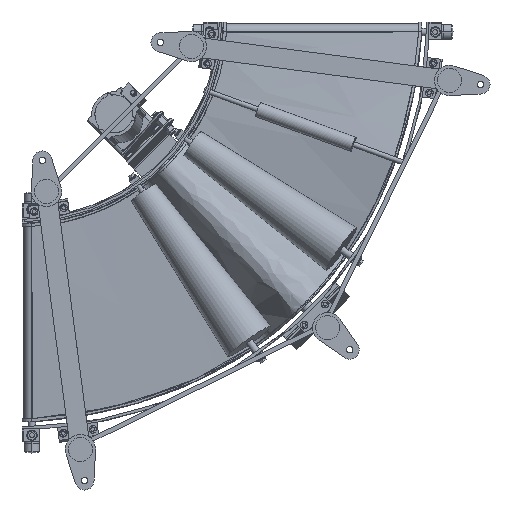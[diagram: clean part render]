
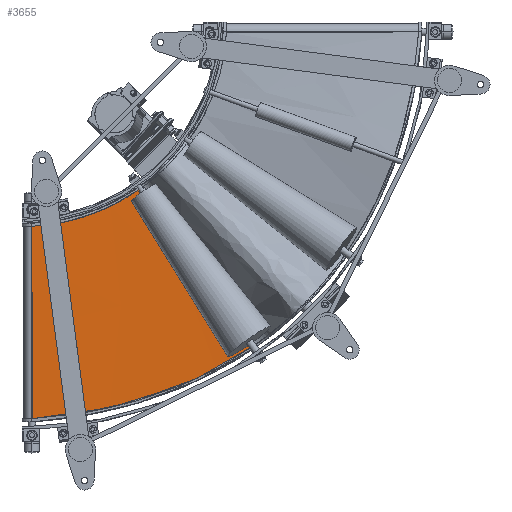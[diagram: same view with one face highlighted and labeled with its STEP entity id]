
A CAD part, front view. The second image highlights one B-rep face of the part: STEP entity #3655.
In plain terms, the highlighted free-form (B-spline) face has degree [3, 1] with [10, 2] control points.
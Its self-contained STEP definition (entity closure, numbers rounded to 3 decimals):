
#3655=ADVANCED_FACE('',(#20194),#20193,.F.);
#20193=( BOUNDED_SURFACE() B_SPLINE_SURFACE( 3,1,((#37366,#37367),(#37368,#37369),(#37370,#37371),(#37372,#37373),(#37374,#37375),(#37376,#37377),(#37378,#37379),(#37380,#37381),(#37382,#37383),(#37384,#37385)), .UNSPECIFIED.,.F.,.F.,.F.) B_SPLINE_SURFACE_WITH_KNOTS((4,1,1,1,1,1,1,4),(2,2),(0.,0.125,0.25,0.375,0.5,0.75,0.875,1.),(0.01,0.988), .UNSPECIFIED. ) GEOMETRIC_REPRESENTATION_ITEM() RATIONAL_B_SPLINE_SURFACE(((1.,1.),(1.,1.),(1.,1.),(1.,1.),(1.,1.),(1.,1.),(1.,1.),(1.,1.),(1.,1.),(1.,1.))) REPRESENTATION_ITEM('') SURFACE() );
#20194=FACE_OUTER_BOUND('',#37386,.T.);
#37366=CARTESIAN_POINT('',(459.837,-54.978,-648.506));
#37367=CARTESIAN_POINT('',(234.121,-40.303,-330.172));
#37368=CARTESIAN_POINT('',(443.601,-53.871,-659.737));
#37369=CARTESIAN_POINT('',(226.148,-39.876,-335.832));
#37370=CARTESIAN_POINT('',(410.253,-51.672,-680.93));
#37371=CARTESIAN_POINT('',(209.794,-39.027,-346.58));
#37372=CARTESIAN_POINT('',(357.945,-48.438,-708.807));
#37373=CARTESIAN_POINT('',(184.16,-37.775,-360.884));
#37374=CARTESIAN_POINT('',(303.726,-45.287,-732.749));
#37375=CARTESIAN_POINT('',(157.555,-36.553,-373.292));
#37376=CARTESIAN_POINT('',(229.345,-41.21,-759.476));
#37377=CARTESIAN_POINT('',(120.973,-34.97,-387.22));
#37378=CARTESIAN_POINT('',(152.532,-37.341,-778.602));
#37379=CARTESIAN_POINT('',(83.025,-33.471,-397.136));
#37380=CARTESIAN_POINT('',(74.424,-33.705,-790.668));
#37381=CARTESIAN_POINT('',(44.3,-32.077,-402.896));
#37382=CARTESIAN_POINT('',(35.082,-31.966,-794.457));
#37383=CARTESIAN_POINT('',(24.779,-31.419,-404.371));
#37384=CARTESIAN_POINT('',(15.375,-31.116,-795.818));
#37385=CARTESIAN_POINT('',(15.005,-31.1,-404.756));
#37386=EDGE_LOOP('',(#49218,#49219,#49220,#49221,#49222));
#49218=ORIENTED_EDGE('',*,*,#55362,.F.);
#49219=ORIENTED_EDGE('',*,*,#55305,.T.);
#49220=ORIENTED_EDGE('',*,*,#55363,.T.);
#49221=ORIENTED_EDGE('',*,*,#55340,.T.);
#49222=ORIENTED_EDGE('',*,*,#55337,.T.);
#55305=EDGE_CURVE('',#82154,#82146,#82155,.T.);
#55337=EDGE_CURVE('',#82363,#82133,#82364,.T.);
#55340=EDGE_CURVE('',#82383,#82363,#82384,.T.);
#55362=EDGE_CURVE('',#82154,#82133,#82526,.T.);
#55363=EDGE_CURVE('',#82146,#82383,#82532,.T.);
#82133=VERTEX_POINT('',#106950);
#82146=VERTEX_POINT('',#106958);
#82154=VERTEX_POINT('',#106964);
#82155=(BOUNDED_CURVE() B_SPLINE_CURVE(3,(#106965,#106966,#106967,#106968,#106969,#106970,#106971,#106972,#106973,#106974,#106975,#106976,#106977,#106978,#106979,#106980,#106981,#106982,#106983,#106984,#106985,#106986,#106987,#106988,#106989,#106990),.UNSPECIFIED.,.F.,.F.) B_SPLINE_CURVE_WITH_KNOTS((4,2,2,2,2,2,2,2,2,2,2,2,4),(0.,0.059,0.118,0.133,0.148,0.178,0.207,0.222,0.237,0.296,0.355,0.415,0.474),.UNSPECIFIED.) CURVE() GEOMETRIC_REPRESENTATION_ITEM() RATIONAL_B_SPLINE_CURVE((1.,1.,1.,1.,1.,1.,1.,1.,1.,1.,1.,1.,1.,1.,1.,1.,1.,1.,1.,1.,1.,1.,1.,1.,1.,1.)) REPRESENTATION_ITEM('') );
#82363=VERTEX_POINT('',#107449);
#82364=(BOUNDED_CURVE() B_SPLINE_CURVE(3,(#107450,#107451,#107452,#107453,#107454,#107455,#107456,#107457,#107458,#107459,#107460,#107461,#107462,#107463,#107464,#107465),.UNSPECIFIED.,.F.,.F.) B_SPLINE_CURVE_WITH_KNOTS((4,2,2,2,2,2,2,4),(0.,0.059,0.088,0.117,0.147,0.176,0.206,0.235),.UNSPECIFIED.) CURVE() GEOMETRIC_REPRESENTATION_ITEM() RATIONAL_B_SPLINE_CURVE((1.,1.,1.,1.,1.,1.,1.,1.,1.,1.,1.,1.,1.,1.,1.,1.)) REPRESENTATION_ITEM('') );
#82383=VERTEX_POINT('',#107474);
#82384=(BOUNDED_CURVE() B_SPLINE_CURVE(3,(#107475,#107476,#107477,#107478),.UNSPECIFIED.,.F.,.F.) B_SPLINE_CURVE_WITH_KNOTS((4,4),(0.,0.),.UNSPECIFIED.) CURVE() GEOMETRIC_REPRESENTATION_ITEM() RATIONAL_B_SPLINE_CURVE((1.,1.,1.,1.)) REPRESENTATION_ITEM('') );
#82526=LINE('',#107986,#107987);
#82532=LINE('',#107989,#107990);
#106950=CARTESIAN_POINT('',(15.003,-31.1,-406.5));
#106958=CARTESIAN_POINT('',(459.82,-54.977,-648.482));
#106964=CARTESIAN_POINT('',(15.373,-31.116,-793.476));
#106965=CARTESIAN_POINT('',(15.373,-31.116,-793.476));
#106966=CARTESIAN_POINT('',(35.056,-31.964,-792.209));
#106967=CARTESIAN_POINT('',(54.704,-32.832,-790.411));
#106968=CARTESIAN_POINT('',(93.866,-34.608,-785.701));
#106969=CARTESIAN_POINT('',(113.38,-35.516,-782.787));
#106970=CARTESIAN_POINT('',(137.639,-36.676,-778.412));
#106971=CARTESIAN_POINT('',(142.484,-36.909,-777.501));
#106972=CARTESIAN_POINT('',(152.159,-37.378,-775.604));
#106973=CARTESIAN_POINT('',(156.989,-37.613,-774.613));
#106974=CARTESIAN_POINT('',(171.455,-38.323,-771.54));
#106975=CARTESIAN_POINT('',(181.068,-38.802,-769.341));
#106976=CARTESIAN_POINT('',(200.217,-39.767,-764.636));
#106977=CARTESIAN_POINT('',(209.754,-40.255,-762.131));
#106978=CARTESIAN_POINT('',(223.994,-40.993,-758.141));
#106979=CARTESIAN_POINT('',(228.729,-41.24,-756.77));
#106980=CARTESIAN_POINT('',(238.176,-41.737,-753.951));
#106981=CARTESIAN_POINT('',(242.888,-41.986,-752.503));
#106982=CARTESIAN_POINT('',(266.383,-43.238,-745.063));
#106983=CARTESIAN_POINT('',(284.98,-44.258,-738.478));
#106984=CARTESIAN_POINT('',(321.661,-46.328,-724.01));
#106985=CARTESIAN_POINT('',(339.743,-47.38,-716.127));
#106986=CARTESIAN_POINT('',(375.278,-49.51,-699.046));
#106987=CARTESIAN_POINT('',(392.729,-50.588,-689.848));
#106988=CARTESIAN_POINT('',(426.871,-52.768,-670.14));
#106989=CARTESIAN_POINT('',(443.563,-53.868,-659.629));
#106990=CARTESIAN_POINT('',(459.82,-54.977,-648.482));
#107449=CARTESIAN_POINT('',(233.715,-40.281,-330.461));
#107450=CARTESIAN_POINT('',(233.715,-40.281,-330.461));
#107451=CARTESIAN_POINT('',(217.797,-39.43,-341.824));
#107452=CARTESIAN_POINT('',(201.07,-38.589,-352.055));
#107453=CARTESIAN_POINT('',(175.016,-37.357,-365.544));
#107454=CARTESIAN_POINT('',(166.172,-36.951,-369.731));
#107455=CARTESIAN_POINT('',(148.203,-36.151,-377.46));
#107456=CARTESIAN_POINT('',(139.08,-35.757,-381.001));
#107457=CARTESIAN_POINT('',(120.604,-34.982,-387.424));
#107458=CARTESIAN_POINT('',(111.25,-34.601,-390.305));
#107459=CARTESIAN_POINT('',(92.363,-33.855,-395.401));
#107460=CARTESIAN_POINT('',(82.829,-33.489,-397.614));
#107461=CARTESIAN_POINT('',(63.625,-32.775,-401.347));
#107462=CARTESIAN_POINT('',(53.956,-32.427,-402.868));
#107463=CARTESIAN_POINT('',(34.532,-31.749,-405.208));
#107464=CARTESIAN_POINT('',(24.778,-31.42,-406.028));
#107465=CARTESIAN_POINT('',(15.006,-31.1,-406.5));
#107474=CARTESIAN_POINT('',(234.121,-40.303,-330.172));
#107475=CARTESIAN_POINT('',(234.121,-40.303,-330.172));
#107476=CARTESIAN_POINT('',(233.986,-40.296,-330.268));
#107477=CARTESIAN_POINT('',(233.851,-40.288,-330.365));
#107478=CARTESIAN_POINT('',(233.715,-40.281,-330.461));
#107986=CARTESIAN_POINT('',(15.373,-31.116,-793.476));
#107987=VECTOR('',#107988,386.976);
#107988=DIRECTION('',(-0.001,0.,1.));
#107989=CARTESIAN_POINT('',(459.82,-54.977,-648.482));
#107990=VECTOR('',#107991,390.483);
#107991=DIRECTION('',(-0.578,0.038,0.815));
